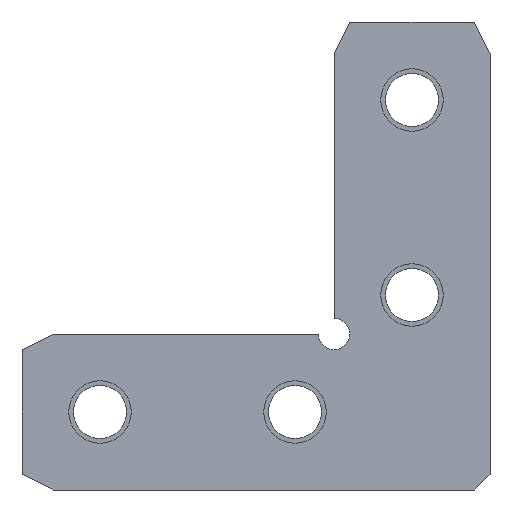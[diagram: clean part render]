
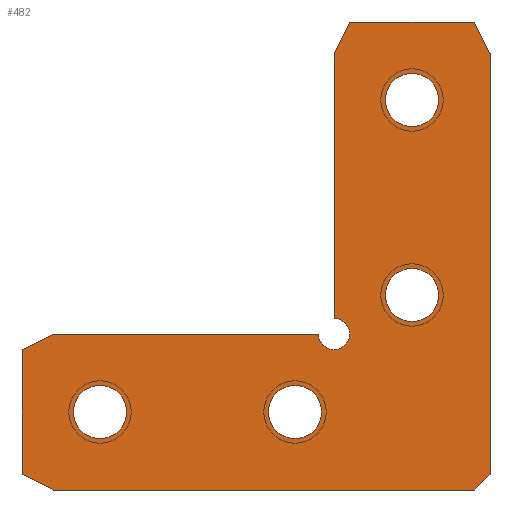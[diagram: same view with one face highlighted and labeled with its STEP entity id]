
A CAD part, front view. The second image highlights one B-rep face of the part: STEP entity #482.
In plain terms, the highlighted planar face has unit normal (0, -1, 0).
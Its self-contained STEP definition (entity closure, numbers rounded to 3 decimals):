
#1=CARTESIAN_POINT('',(-15.,0.,0.));
#2=DIRECTION('',(0.,-1.,0.));
#3=DIRECTION('',(0.,0.,-1.));
#4=AXIS2_PLACEMENT_3D('',#1,#2,#3);
#6=CARTESIAN_POINT('',(-15.,0.,0.));
#7=DIRECTION('',(0.,-1.,0.));
#8=DIRECTION('',(0.,0.,1.));
#9=AXIS2_PLACEMENT_3D('',#6,#7,#8);
#11=CARTESIAN_POINT('',(-40.,0.,0.));
#12=DIRECTION('',(0.,-1.,0.));
#13=DIRECTION('',(0.,0.,-1.));
#14=AXIS2_PLACEMENT_3D('',#11,#12,#13);
#16=CARTESIAN_POINT('',(-40.,0.,0.));
#17=DIRECTION('',(0.,-1.,0.));
#18=DIRECTION('',(0.,0.,1.));
#19=AXIS2_PLACEMENT_3D('',#16,#17,#18);
#21=CARTESIAN_POINT('',(0.,0.,40.));
#22=DIRECTION('',(0.,1.,0.));
#23=DIRECTION('',(1.,0.,0.));
#24=AXIS2_PLACEMENT_3D('',#21,#22,#23);
#26=CARTESIAN_POINT('',(0.,0.,40.));
#27=DIRECTION('',(0.,1.,0.));
#28=DIRECTION('',(-1.,0.,0.));
#29=AXIS2_PLACEMENT_3D('',#26,#27,#28);
#31=CARTESIAN_POINT('',(0.,0.,15.));
#32=DIRECTION('',(0.,1.,0.));
#33=DIRECTION('',(1.,0.,0.));
#34=AXIS2_PLACEMENT_3D('',#31,#32,#33);
#36=CARTESIAN_POINT('',(0.,0.,15.));
#37=DIRECTION('',(0.,1.,0.));
#38=DIRECTION('',(-1.,0.,0.));
#39=AXIS2_PLACEMENT_3D('',#36,#37,#38);
#41=CARTESIAN_POINT('',(-10.,0.,10.));
#42=DIRECTION('',(0.,1.,0.));
#43=DIRECTION('',(0.,0.,1.));
#44=AXIS2_PLACEMENT_3D('',#41,#42,#43);
#46=DIRECTION('',(0.,0.,1.));
#47=VECTOR('',#46,34.);
#48=CARTESIAN_POINT('',(-10.,0.,12.));
#49=LINE('',#48,#47);
#50=DIRECTION('',(1.,0.,0.));
#51=VECTOR('',#50,16.);
#52=CARTESIAN_POINT('',(-8.,0.,50.));
#53=LINE('',#52,#51);
#54=DIRECTION('',(0.,0.,-1.));
#55=VECTOR('',#54,54.);
#56=CARTESIAN_POINT('',(10.,0.,46.));
#57=LINE('',#56,#55);
#58=DIRECTION('',(1.,0.,0.));
#59=VECTOR('',#58,54.);
#60=CARTESIAN_POINT('',(-46.,0.,-10.));
#61=LINE('',#60,#59);
#62=DIRECTION('',(0.,0.,-1.));
#63=VECTOR('',#62,16.);
#64=CARTESIAN_POINT('',(-50.,0.,8.));
#65=LINE('',#64,#63);
#66=DIRECTION('',(-1.,0.,0.));
#67=VECTOR('',#66,34.);
#68=CARTESIAN_POINT('',(-12.,0.,10.));
#69=LINE('',#68,#67);
#259=DIRECTION('',(0.894,0.,0.447));
#260=VECTOR('',#259,4.472);
#261=CARTESIAN_POINT('',(-50.,0.,8.));
#262=LINE('',#261,#260);
#275=DIRECTION('',(-0.894,0.,0.447));
#276=VECTOR('',#275,4.472);
#277=CARTESIAN_POINT('',(-46.,0.,-10.));
#278=LINE('',#277,#276);
#291=DIRECTION('',(-0.707,0.,-0.707));
#292=VECTOR('',#291,2.828);
#293=CARTESIAN_POINT('',(10.,0.,-8.));
#294=LINE('',#293,#292);
#299=DIRECTION('',(-0.447,0.,0.894));
#300=VECTOR('',#299,4.472);
#301=CARTESIAN_POINT('',(10.,0.,46.));
#302=LINE('',#301,#300);
#315=DIRECTION('',(-0.447,0.,-0.894));
#316=VECTOR('',#315,4.472);
#317=CARTESIAN_POINT('',(-8.,0.,50.));
#318=LINE('',#317,#316);
#335=CARTESIAN_POINT('',(3.4,0.,40.));
#336=CARTESIAN_POINT('',(-3.4,0.,40.));
#337=VERTEX_POINT('',#335);
#338=VERTEX_POINT('',#336);
#347=CARTESIAN_POINT('',(3.4,0.,15.));
#348=CARTESIAN_POINT('',(-3.4,0.,15.));
#349=VERTEX_POINT('',#347);
#350=VERTEX_POINT('',#348);
#355=CARTESIAN_POINT('',(-8.,0.,50.));
#357=VERTEX_POINT('',#355);
#359=CARTESIAN_POINT('',(-10.,0.,46.));
#361=VERTEX_POINT('',#359);
#363=CARTESIAN_POINT('',(10.,0.,46.));
#365=VERTEX_POINT('',#363);
#367=CARTESIAN_POINT('',(8.,0.,50.));
#369=VERTEX_POINT('',#367);
#375=CARTESIAN_POINT('',(-40.,0.,-3.4));
#376=CARTESIAN_POINT('',(-40.,0.,3.4));
#377=VERTEX_POINT('',#375);
#378=VERTEX_POINT('',#376);
#387=CARTESIAN_POINT('',(-15.,0.,-3.4));
#388=CARTESIAN_POINT('',(-15.,0.,3.4));
#389=VERTEX_POINT('',#387);
#390=VERTEX_POINT('',#388);
#395=CARTESIAN_POINT('',(-50.,0.,8.));
#397=VERTEX_POINT('',#395);
#399=CARTESIAN_POINT('',(-46.,0.,10.));
#401=VERTEX_POINT('',#399);
#403=CARTESIAN_POINT('',(-46.,0.,-10.));
#405=VERTEX_POINT('',#403);
#407=CARTESIAN_POINT('',(-50.,0.,-8.));
#409=VERTEX_POINT('',#407);
#411=CARTESIAN_POINT('',(10.,0.,-8.));
#413=VERTEX_POINT('',#411);
#415=CARTESIAN_POINT('',(8.,0.,-10.));
#417=VERTEX_POINT('',#415);
#419=CARTESIAN_POINT('',(-10.,0.,12.));
#420=CARTESIAN_POINT('',(-12.,0.,10.));
#421=VERTEX_POINT('',#419);
#422=VERTEX_POINT('',#420);
#427=CARTESIAN_POINT('',(0.,0.,0.));
#428=DIRECTION('',(0.,1.,0.));
#429=DIRECTION('',(1.,0.,0.));
#430=AXIS2_PLACEMENT_3D('',#427,#428,#429);
#431=PLANE('',#430);
#433=ORIENTED_EDGE('',*,*,#432,.F.);
#435=ORIENTED_EDGE('',*,*,#434,.T.);
#437=ORIENTED_EDGE('',*,*,#436,.F.);
#439=ORIENTED_EDGE('',*,*,#438,.T.);
#441=ORIENTED_EDGE('',*,*,#440,.F.);
#443=ORIENTED_EDGE('',*,*,#442,.T.);
#445=ORIENTED_EDGE('',*,*,#444,.T.);
#447=ORIENTED_EDGE('',*,*,#446,.F.);
#449=ORIENTED_EDGE('',*,*,#448,.T.);
#451=ORIENTED_EDGE('',*,*,#450,.F.);
#453=ORIENTED_EDGE('',*,*,#452,.T.);
#455=ORIENTED_EDGE('',*,*,#454,.F.);
#456=EDGE_LOOP('',(#433,#435,#437,#439,#441,#443,#445,#447,#449,#451,#453,
#455));
#457=FACE_OUTER_BOUND('',#456,.F.);
#459=ORIENTED_EDGE('',*,*,#458,.T.);
#461=ORIENTED_EDGE('',*,*,#460,.T.);
#462=EDGE_LOOP('',(#459,#461));
#463=FACE_BOUND('',#462,.F.);
#465=ORIENTED_EDGE('',*,*,#464,.T.);
#467=ORIENTED_EDGE('',*,*,#466,.T.);
#468=EDGE_LOOP('',(#465,#467));
#469=FACE_BOUND('',#468,.F.);
#471=ORIENTED_EDGE('',*,*,#470,.F.);
#473=ORIENTED_EDGE('',*,*,#472,.F.);
#474=EDGE_LOOP('',(#471,#473));
#475=FACE_BOUND('',#474,.F.);
#477=ORIENTED_EDGE('',*,*,#476,.F.);
#479=ORIENTED_EDGE('',*,*,#478,.F.);
#480=EDGE_LOOP('',(#477,#479));
#481=FACE_BOUND('',#480,.F.);
#482=ADVANCED_FACE('',(#457,#463,#469,#475,#481),#431,.F.);
#5=CIRCLE('',#4,3.4);
#10=CIRCLE('',#9,3.4);
#15=CIRCLE('',#14,3.4);
#20=CIRCLE('',#19,3.4);
#25=CIRCLE('',#24,3.4);
#30=CIRCLE('',#29,3.4);
#35=CIRCLE('',#34,3.4);
#40=CIRCLE('',#39,3.4);
#45=CIRCLE('',#44,2.);
#432=EDGE_CURVE('',#421,#422,#45,.T.);
#434=EDGE_CURVE('',#421,#361,#49,.T.);
#436=EDGE_CURVE('',#357,#361,#318,.T.);
#438=EDGE_CURVE('',#357,#369,#53,.T.);
#440=EDGE_CURVE('',#365,#369,#302,.T.);
#442=EDGE_CURVE('',#365,#413,#57,.T.);
#444=EDGE_CURVE('',#413,#417,#294,.T.);
#446=EDGE_CURVE('',#405,#417,#61,.T.);
#448=EDGE_CURVE('',#405,#409,#278,.T.);
#450=EDGE_CURVE('',#397,#409,#65,.T.);
#452=EDGE_CURVE('',#397,#401,#262,.T.);
#454=EDGE_CURVE('',#422,#401,#69,.T.);
#458=EDGE_CURVE('',#389,#390,#5,.T.);
#460=EDGE_CURVE('',#390,#389,#10,.T.);
#464=EDGE_CURVE('',#377,#378,#15,.T.);
#466=EDGE_CURVE('',#378,#377,#20,.T.);
#470=EDGE_CURVE('',#337,#338,#25,.T.);
#472=EDGE_CURVE('',#338,#337,#30,.T.);
#476=EDGE_CURVE('',#349,#350,#35,.T.);
#478=EDGE_CURVE('',#350,#349,#40,.T.);
